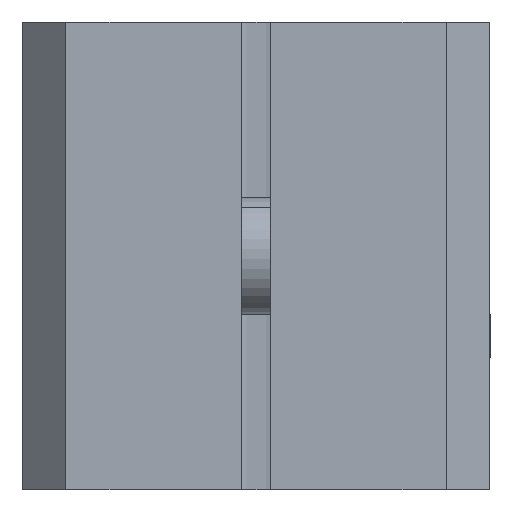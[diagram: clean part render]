
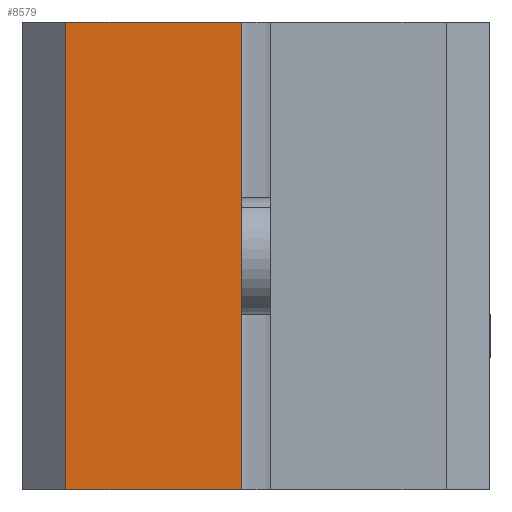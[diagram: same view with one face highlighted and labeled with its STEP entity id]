
A CAD part, left-side view. The second image highlights one B-rep face of the part: STEP entity #8579.
In plain terms, the highlighted planar face has unit normal (-1, 0, 0).
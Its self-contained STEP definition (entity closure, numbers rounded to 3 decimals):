
#5 = VECTOR ( 'NONE', #11455, 1000. ) ;
#711 = CARTESIAN_POINT ( 'NONE',  ( -9.423, 16.423, 8. ) ) ;
#1482 = VECTOR ( 'NONE', #2092, 1000. ) ;
#1593 = ORIENTED_EDGE ( 'NONE', *, *, #10582, .F. ) ;
#1901 = LINE ( 'NONE', #3000, #1482 ) ;
#1964 = AXIS2_PLACEMENT_3D ( 'NONE', #4581, #10763, #10998 ) ;
#2092 = DIRECTION ( 'NONE',  ( 0., 0., -1. ) ) ;
#2404 = VECTOR ( 'NONE', #6204, 1000. ) ;
#2496 = FACE_OUTER_BOUND ( 'NONE', #6527, .T. ) ;
#2548 = EDGE_CURVE ( 'NONE', #8457, #5737, #1901, .T. ) ;
#3000 = CARTESIAN_POINT ( 'NONE',  ( -9.423, 22.423, 0. ) ) ;
#3210 = VERTEX_POINT ( 'NONE', #7672 ) ;
#3332 = ORIENTED_EDGE ( 'NONE', *, *, #3899, .F. ) ;
#3899 = EDGE_CURVE ( 'NONE', #8457, #4492, #7091, .T. ) ;
#4492 = VERTEX_POINT ( 'NONE', #711 ) ;
#4581 = CARTESIAN_POINT ( 'NONE',  ( -9.423, 16.423, -8. ) ) ;
#4944 = CARTESIAN_POINT ( 'NONE',  ( -9.423, 22.423, -8. ) ) ;
#5737 = VERTEX_POINT ( 'NONE', #4944 ) ;
#5860 = ORIENTED_EDGE ( 'NONE', *, *, #7326, .T. ) ;
#6085 = CARTESIAN_POINT ( 'NONE',  ( -9.423, 15.923, 8. ) ) ;
#6204 = DIRECTION ( 'NONE',  ( 0., -1., 0. ) ) ;
#6499 = ORIENTED_EDGE ( 'NONE', *, *, #2548, .T. ) ;
#6527 = EDGE_LOOP ( 'NONE', ( #1593, #5860, #3332, #6499 ) ) ;
#7091 = LINE ( 'NONE', #6085, #2404 ) ;
#7326 = EDGE_CURVE ( 'NONE', #3210, #4492, #7771, .T. ) ;
#7672 = CARTESIAN_POINT ( 'NONE',  ( -9.423, 16.423, -8. ) ) ;
#7771 = LINE ( 'NONE', #11554, #11513 ) ;
#8457 = VERTEX_POINT ( 'NONE', #11327 ) ;
#8579 = ADVANCED_FACE ( 'NONE', ( #2496 ), #10699, .T. ) ;
#8747 = CARTESIAN_POINT ( 'NONE',  ( -9.423, 15.923, -8. ) ) ;
#9601 = LINE ( 'NONE', #8747, #5 ) ;
#9736 = DIRECTION ( 'NONE',  ( 0., 0., 1. ) ) ;
#10582 = EDGE_CURVE ( 'NONE', #3210, #5737, #9601, .T. ) ;
#10699 = PLANE ( 'NONE',  #1964 ) ;
#10763 = DIRECTION ( 'NONE',  ( -1., 0., 0. ) ) ;
#10998 = DIRECTION ( 'NONE',  ( 0., 0., 1. ) ) ;
#11327 = CARTESIAN_POINT ( 'NONE',  ( -9.423, 22.423, 8. ) ) ;
#11455 = DIRECTION ( 'NONE',  ( 0., 1., 0. ) ) ;
#11513 = VECTOR ( 'NONE', #9736, 1000. ) ;
#11554 = CARTESIAN_POINT ( 'NONE',  ( -9.423, 16.423, 0. ) ) ;
